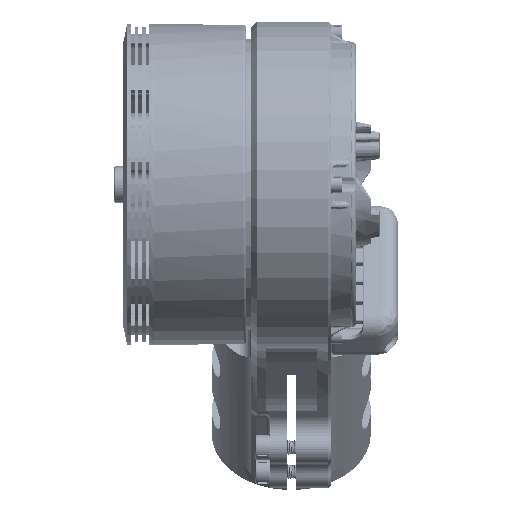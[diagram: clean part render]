
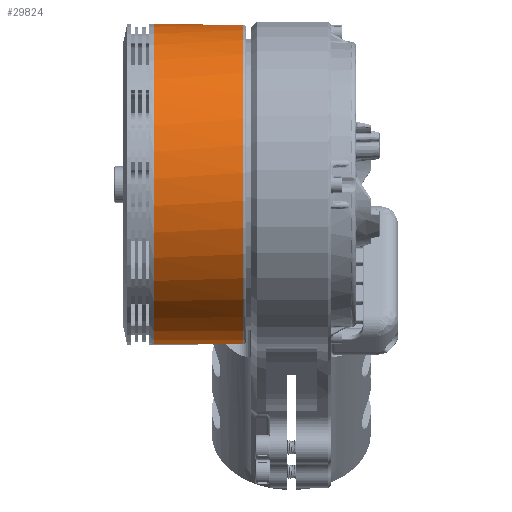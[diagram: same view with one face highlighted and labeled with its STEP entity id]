
A CAD part, left-side view. The second image highlights one B-rep face of the part: STEP entity #29824.
In plain terms, the highlighted cylindrical face has radius 44.3 mm (diameter 88.6 mm), a partial arc.
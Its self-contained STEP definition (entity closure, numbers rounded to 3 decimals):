
#4572=CARTESIAN_POINT('',(0.,-4.837,0.));
#4573=DIRECTION('',(0.,1.,0.));
#4574=DIRECTION('',(0.,0.,1.));
#4575=AXIS2_PLACEMENT_3D('',#4572,#4573,#4574);
#4847=CARTESIAN_POINT('',(0.,-6.137,0.));
#4848=DIRECTION('',(0.,-1.,0.));
#4849=DIRECTION('',(0.,0.,1.));
#4850=AXIS2_PLACEMENT_3D('',#4847,#4848,#4849);
#4852=DIRECTION('',(0.,-1.,0.));
#4853=VECTOR('',#4852,24.7);
#4854=CARTESIAN_POINT('',(3.192,-6.137,44.185));
#4855=LINE('',#4854,#4853);
#4856=DIRECTION('',(0.,1.,0.));
#4857=VECTOR('',#4856,1.3);
#4858=CARTESIAN_POINT('',(0.,-6.137,44.3));
#4859=LINE('',#4858,#4857);
#4860=CARTESIAN_POINT('',(0.,-6.137,0.));
#4861=DIRECTION('',(0.,1.,0.));
#4862=DIRECTION('',(0.072,0.,0.997));
#4863=AXIS2_PLACEMENT_3D('',#4860,#4861,#4862);
#4865=DIRECTION('',(0.,-1.,0.));
#4866=VECTOR('',#4865,24.7);
#4867=CARTESIAN_POINT('',(-3.192,-6.137,
-44.185));
#4868=LINE('',#4867,#4866);
#4869=DIRECTION('',(0.,1.,0.));
#4870=VECTOR('',#4869,1.3);
#4871=CARTESIAN_POINT('',(0.,-6.137,-44.3));
#4872=LINE('',#4871,#4870);
#4878=CARTESIAN_POINT('',(0.,-30.837,
0.));
#4879=DIRECTION('',(0.,-1.,0.));
#4880=DIRECTION('',(0.072,0.,0.997));
#4881=AXIS2_PLACEMENT_3D('',#4878,#4879,#4880);
#15574=CARTESIAN_POINT('',(0.,-4.837,44.3));
#15575=CARTESIAN_POINT('',(0.,-4.837,-44.3));
#15576=VERTEX_POINT('',#15574);
#15577=VERTEX_POINT('',#15575);
#16021=CARTESIAN_POINT('',(-3.192,-30.837,
-44.185));
#16022=CARTESIAN_POINT('',(3.192,-30.837,
44.185));
#16023=VERTEX_POINT('',#16021);
#16024=VERTEX_POINT('',#16022);
#16250=CARTESIAN_POINT('',(0.,-6.137,44.3));
#16251=CARTESIAN_POINT('',(-3.192,-6.137,
-44.185));
#16252=VERTEX_POINT('',#16250);
#16253=VERTEX_POINT('',#16251);
#16913=CARTESIAN_POINT('',(3.192,-6.137,
44.185));
#16914=CARTESIAN_POINT('',(0.,-6.137,-44.3));
#16915=VERTEX_POINT('',#16913);
#16916=VERTEX_POINT('',#16914);
#29808=CARTESIAN_POINT('',(0.,-30.63,0.));
#29809=DIRECTION('',(0.,-1.,0.));
#29810=DIRECTION('',(0.,0.,-1.));
#29811=AXIS2_PLACEMENT_3D('',#29808,#29809,#29810);
#29812=CYLINDRICAL_SURFACE('',#29811,44.3);
#29813=ORIENTED_EDGE('',*,*,#29798,.F.);
#29814=ORIENTED_EDGE('',*,*,#29796,.T.);
#29816=ORIENTED_EDGE('',*,*,#29815,.T.);
#29817=ORIENTED_EDGE('',*,*,#29792,.F.);
#29818=ORIENTED_EDGE('',*,*,#29790,.F.);
#29819=ORIENTED_EDGE('',*,*,#29803,.T.);
#29820=ORIENTED_EDGE('',*,*,#29674,.T.);
#29821=ORIENTED_EDGE('',*,*,#29800,.F.);
#29822=EDGE_LOOP('',(#29813,#29814,#29816,#29817,#29818,#29819,#29820,#29821));
#29823=FACE_OUTER_BOUND('',#29822,.F.);
#4576=CIRCLE('',#4575,44.3);
#4851=CIRCLE('',#4850,44.3);
#4864=CIRCLE('',#4863,44.3);
#4882=CIRCLE('',#4881,44.3);
#29674=EDGE_CURVE('',#15576,#15577,#4576,.T.);
#29790=EDGE_CURVE('',#16252,#16253,#4851,.T.);
#29792=EDGE_CURVE('',#16253,#16023,#4868,.T.);
#29796=EDGE_CURVE('',#16915,#16024,#4855,.T.);
#29798=EDGE_CURVE('',#16915,#16916,#4864,.T.);
#29800=EDGE_CURVE('',#16916,#15577,#4872,.T.);
#29803=EDGE_CURVE('',#16252,#15576,#4859,.T.);
#29815=EDGE_CURVE('',#16024,#16023,#4882,.T.);
#29824=ADVANCED_FACE('',(#29823),#29812,.T.);
